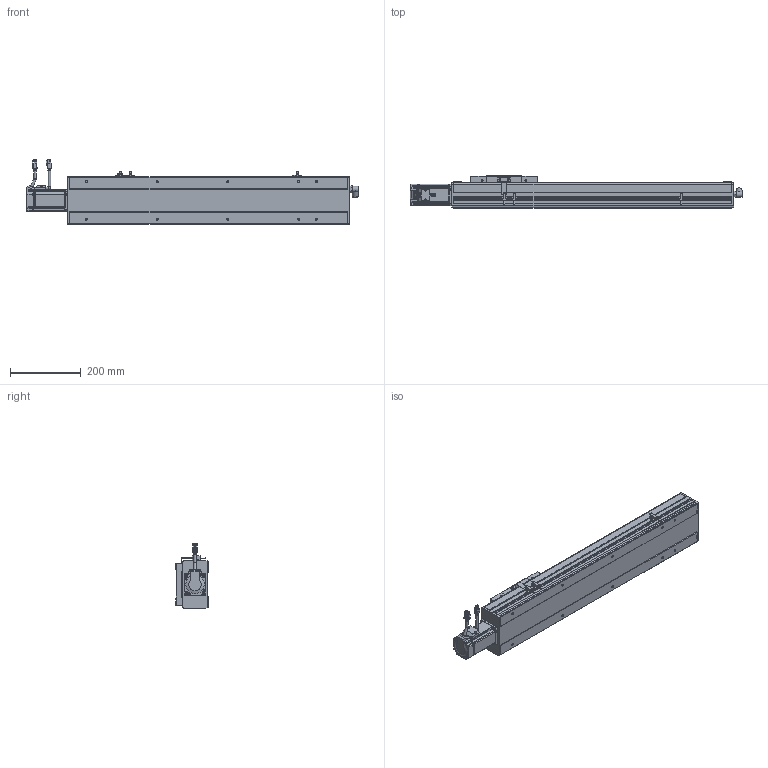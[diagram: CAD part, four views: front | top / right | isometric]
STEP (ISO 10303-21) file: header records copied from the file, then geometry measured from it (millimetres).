
FILE_DESCRIPTION(/* description */ ('STEP AP214'),/* implementation_level */ '2;1');
FILE_NAME(/* name */ 'PSC140-L05-S500-BC-P40-C1-N(0)',/* time_stamp */ '2022-06-13T03:13:38+02:00',/* author */ ('License CC BY-ND 4.0'),/* organization */ ('CADENAS'),/* preprocessor_version */ 'ST-DEVELOPER v18.102',/* originating_system */ 'PARTsolutions',/* authorisation */ ' ');
FILE_SCHEMA (('AUTOMOTIVE_DESIGN {1 0 10303 214 3 1 1}'));
Length unit declared in the file: millimetre
Products named in the file (10): PSC140-L05-S500-BC-P40-C1-N(0); P40-s2; P40-c2; P40-s1; P40-c1; P40-p1; PSC140-sensor; PSC140-BC-SLIDER; PSC140-S500-BC-P40-C1_BODY1; PSC140-L05-S500-BC-P40-C1-N(0)_dummy
Assembly tree (11 placements, depth 2):
  PSC140-L05-S500-BC-P40-C1-N(0)
    P40-s2
    P40-c2
    P40-s1
    P40-c1
    P40-p1
    PSC140-sensor  x3
    PSC140-BC-SLIDER
    PSC140-S500-BC-P40-C1_BODY1
    PSC140-L05-S500-BC-P40-C1-N(0)_dummy
Bounding box: 939 x 91 x 182.48 mm (x, y, z)
Volume: 8302171.6 mm3; surface area: 515160.7 mm2
Topology: 10 solids, 10 shells, 1244 faces, 3210 edges, 2121 vertices
Faces by surface type: plane 864, cylinder 315, cone 46, torus 19
Full cylindrical faces by diameter (mm): 1 x8, 2.6 x10, 2.8 x3, 3.3 x8, 4.5 x12, 4.6 x3, 4.917 x14, 5 x4, 5.5 x8, 6 x10, 6.08 x4, 7 x10, 9 x2, 10 x1, 11 x1, 13.74 x1, 14 x1, 16.4 x2, 16.5 x1, 19.98 x1, 31.98 x1, 35.5 x1, 50 x2
Entity records: 34358 total; most frequent: CARTESIAN_POINT 6001, DIRECTION 5779, ORIENTED_EDGE 5570, EDGE_CURVE 2785, LINE 2109, VECTOR 2109, VERTEX_POINT 1942, AXIS2_PLACEMENT_3D 1835
